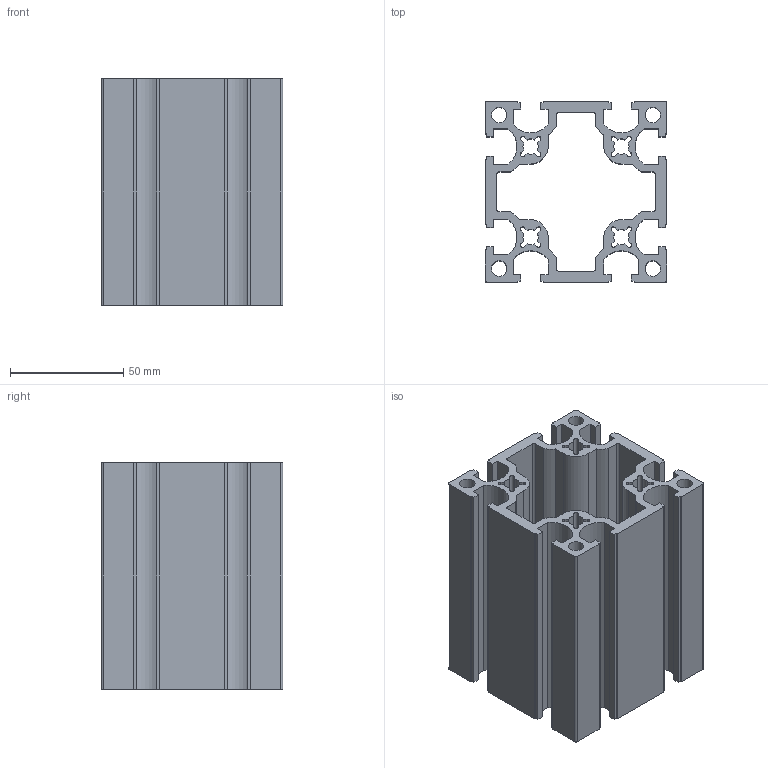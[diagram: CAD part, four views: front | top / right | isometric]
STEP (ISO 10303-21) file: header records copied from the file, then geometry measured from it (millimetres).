
FILE_DESCRIPTION(/* description */ (''),/* implementation_level */ '2;1');
FILE_NAME(/* name */ '\\AM-PUBLIC\Share\3D新型錄-2019整理\01.AM-鋁擠\8系列\AM8-H8080_100L.stp',/* time_stamp */ '2020-08-03T16:57:40+08:00',/* author */ ('AM'),/* organization */ (''),/* preprocessor_version */ 'ST-DEVELOPER v16.5',/* originating_system */ 'Autodesk Inventor 2017',/* authorisation */ '');
FILE_SCHEMA (('AUTOMOTIVE_DESIGN { 1 0 10303 214 3 1 1 }'));
Length unit declared in the file: millimetre
Products named in the file (1): 零件3
Bounding box: 80 x 80 x 100 mm (x, y, z)
Volume: 196975 mm3; surface area: 113803.2 mm2
Topology: 1 solids, 1 shells, 214 faces, 636 edges, 424 vertices
Faces by surface type: plane 146, cylinder 68
Full cylindrical faces by diameter (mm): 6.8 x4
Entity records: 7196 total; most frequent: CARTESIAN_POINT 1271, ORIENTED_EDGE 1264, DIRECTION 1198, EDGE_CURVE 632, LINE 496, VECTOR 496, VERTEX_POINT 424, AXIS2_PLACEMENT_3D 351
